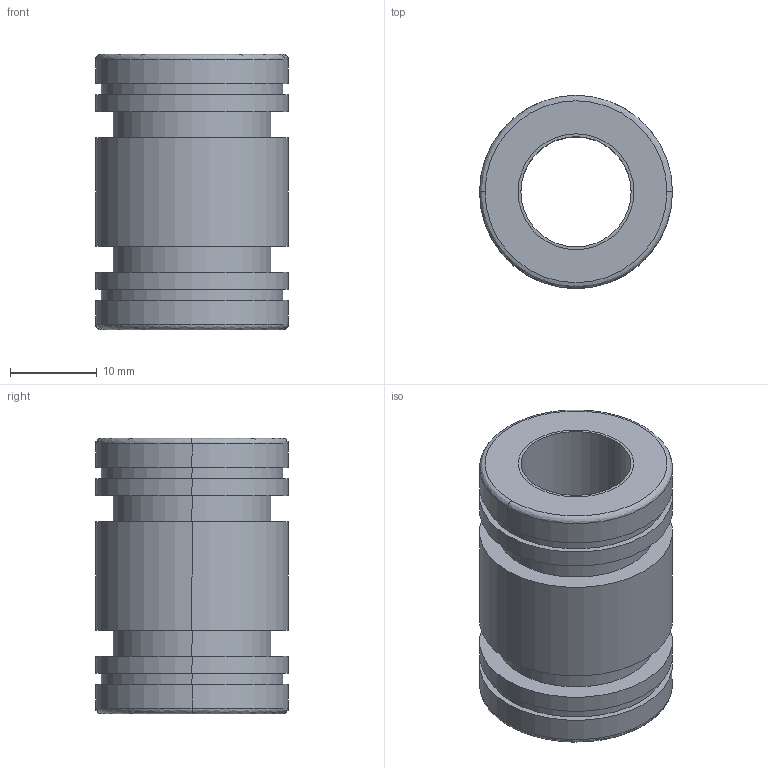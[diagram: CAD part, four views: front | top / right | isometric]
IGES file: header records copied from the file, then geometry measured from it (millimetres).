
Global section: file name: C:\Documents and Settings\Administrator\Desktop\Transfer Temp\linearbearing.igs; native system: AutoDesk Inventor R2.0 ; preprocessor: AutoDesk Inventor Iges Exporter R2.0; author: No Author specified; organization: No Organization specified; date: 20020127.165311; units: inch
Bounding box: 22.23 x 22.23 x 31.75 mm (x, y, z)
Surface area: 7237.9 mm2 (no closed solid volume)
Topology: 0 solids, 0 shells, 40 faces, 160 edges, 160 vertices
Faces by surface type: revolution 28, bspline 12
